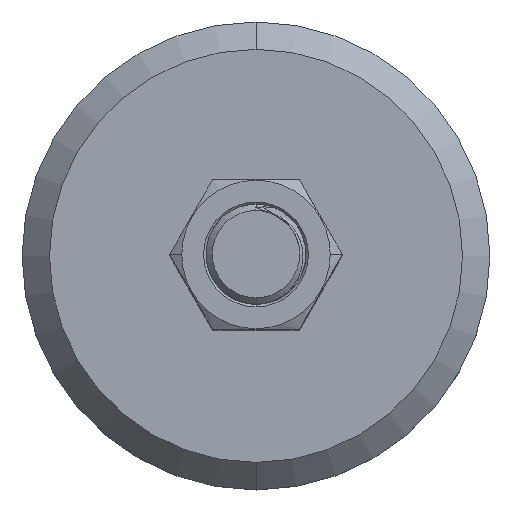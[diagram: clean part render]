
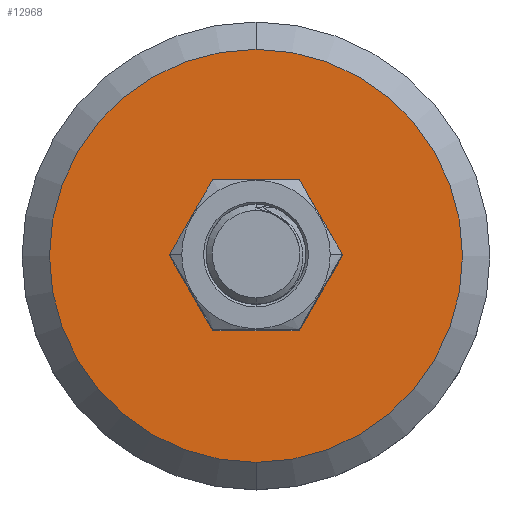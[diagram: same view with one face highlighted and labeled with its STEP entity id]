
A CAD part, top view. The second image highlights one B-rep face of the part: STEP entity #12968.
In plain terms, the highlighted planar face has unit normal (0, 0, 1).
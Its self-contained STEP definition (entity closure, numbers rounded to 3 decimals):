
#88 = DIRECTION ( 'NONE',  ( 1., 0., 0. ) ) ;
#651 = EDGE_LOOP ( 'NONE', ( #5514, #9377 ) ) ;
#1174 = DIRECTION ( 'NONE',  ( 0., 0., 1. ) ) ;
#1229 = CARTESIAN_POINT ( 'NONE',  ( 0., 0., 15. ) ) ;
#1427 = EDGE_CURVE ( 'NONE', #15198, #8591, #13960, .T. ) ;
#1552 = EDGE_CURVE ( 'NONE', #10423, #6936, #7123, .T. ) ;
#2010 = AXIS2_PLACEMENT_3D ( 'NONE', #3115, #12128, #4410 ) ;
#2100 = CARTESIAN_POINT ( 'NONE',  ( 11.5, 0., 15. ) ) ;
#2542 = DIRECTION ( 'NONE',  ( 1., 0., 0. ) ) ;
#3115 = CARTESIAN_POINT ( 'NONE',  ( 0., 0., 15. ) ) ;
#3683 = CARTESIAN_POINT ( 'NONE',  ( -11.5, 0., 15. ) ) ;
#4047 = AXIS2_PLACEMENT_3D ( 'NONE', #1229, #10278, #2542 ) ;
#4410 = DIRECTION ( 'NONE',  ( 1., 0., 0. ) ) ;
#4650 = CARTESIAN_POINT ( 'NONE',  ( 0., 0., 15. ) ) ;
#5147 = CARTESIAN_POINT ( 'NONE',  ( 0., 33.107, 15. ) ) ;
#5514 = ORIENTED_EDGE ( 'NONE', *, *, #1427, .T. ) ;
#5838 = AXIS2_PLACEMENT_3D ( 'NONE', #4650, #13667, #5955 ) ;
#5955 = DIRECTION ( 'NONE',  ( 1., 0., 0. ) ) ;
#6501 = CIRCLE ( 'NONE', #2010, 11.5 ) ;
#6936 = VERTEX_POINT ( 'NONE', #3683 ) ;
#7051 = CARTESIAN_POINT ( 'NONE',  ( -22.77, -22.77, 15. ) ) ;
#7082 = AXIS2_PLACEMENT_3D ( 'NONE', #7051, #1174, #10219 ) ;
#7123 = CIRCLE ( 'NONE', #5838, 11.5 ) ;
#7287 = FACE_OUTER_BOUND ( 'NONE', #651, .T. ) ;
#7718 = CIRCLE ( 'NONE', #4047, 33.107 ) ;
#7845 = DIRECTION ( 'NONE',  ( 0., 0., 1. ) ) ;
#7908 = AXIS2_PLACEMENT_3D ( 'NONE', #15552, #7845, #88 ) ;
#8591 = VERTEX_POINT ( 'NONE', #14321 ) ;
#9377 = ORIENTED_EDGE ( 'NONE', *, *, #11393, .T. ) ;
#10219 = DIRECTION ( 'NONE',  ( 1., 0., 0. ) ) ;
#10278 = DIRECTION ( 'NONE',  ( 0., 0., 1. ) ) ;
#10423 = VERTEX_POINT ( 'NONE', #2100 ) ;
#10738 = ORIENTED_EDGE ( 'NONE', *, *, #1552, .T. ) ;
#11393 = EDGE_CURVE ( 'NONE', #8591, #15198, #7718, .T. ) ;
#12128 = DIRECTION ( 'NONE',  ( 0., 0., -1. ) ) ;
#12968 = ADVANCED_FACE ( 'NONE', ( #16369, #7287 ), #13977, .T. ) ;
#13667 = DIRECTION ( 'NONE',  ( 0., 0., -1. ) ) ;
#13960 = CIRCLE ( 'NONE', #7908, 33.107 ) ;
#13977 = PLANE ( 'NONE',  #7082 ) ;
#14321 = CARTESIAN_POINT ( 'NONE',  ( 0., -33.107, 15. ) ) ;
#14484 = EDGE_LOOP ( 'NONE', ( #10738, #14984 ) ) ;
#14719 = EDGE_CURVE ( 'NONE', #6936, #10423, #6501, .T. ) ;
#14984 = ORIENTED_EDGE ( 'NONE', *, *, #14719, .T. ) ;
#15198 = VERTEX_POINT ( 'NONE', #5147 ) ;
#15552 = CARTESIAN_POINT ( 'NONE',  ( 0., 0., 15. ) ) ;
#16369 = FACE_BOUND ( 'NONE', #14484, .T. ) ;
